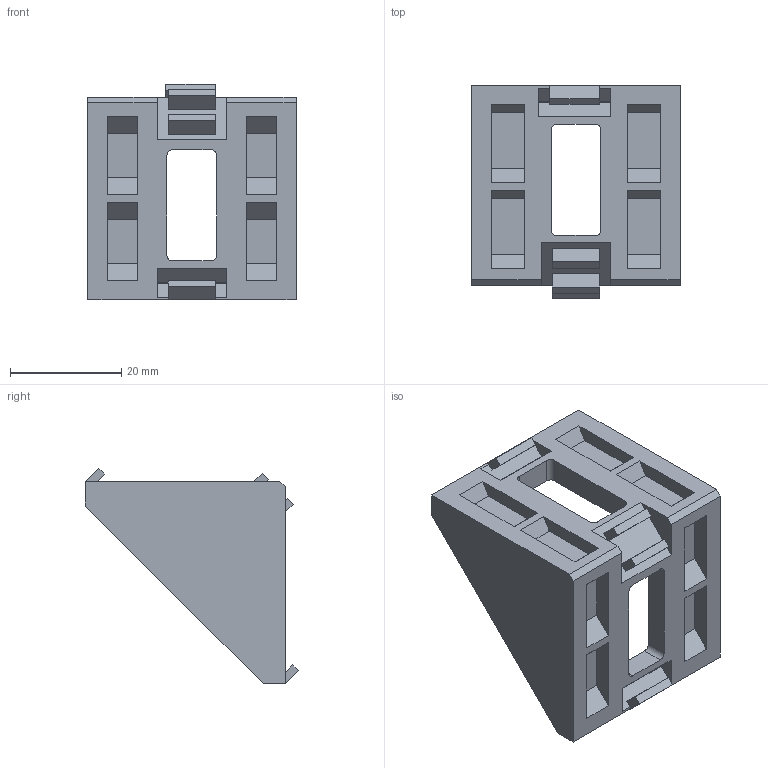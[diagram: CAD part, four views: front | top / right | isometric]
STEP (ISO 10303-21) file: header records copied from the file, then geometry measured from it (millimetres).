
FILE_DESCRIPTION (( 'STEP AP203' ), '1' );
FILE_NAME ('1038.STEP', '2016-03-22T14:27:15', ( '' ), ( '' ), 'SwSTEP 2.0', 'SolidWorks 2014', '' );
FILE_SCHEMA (( 'CONFIG_CONTROL_DESIGN' ));
Length unit declared in the file: millimetre
Products named in the file (1): 1038
Bounding box: 37.5 x 38.39 x 38.87 mm (x, y, z)
Volume: 10590.7 mm3; surface area: 8666.6 mm2
Topology: 1 solids, 1 shells, 104 faces, 267 edges, 176 vertices
Faces by surface type: plane 96, cylinder 8
Entity records: 3184 total; most frequent: CARTESIAN_POINT 548, ORIENTED_EDGE 534, DIRECTION 493, EDGE_CURVE 267, VECTOR 251, LINE 251, VERTEX_POINT 176, AXIS2_PLACEMENT_3D 121
